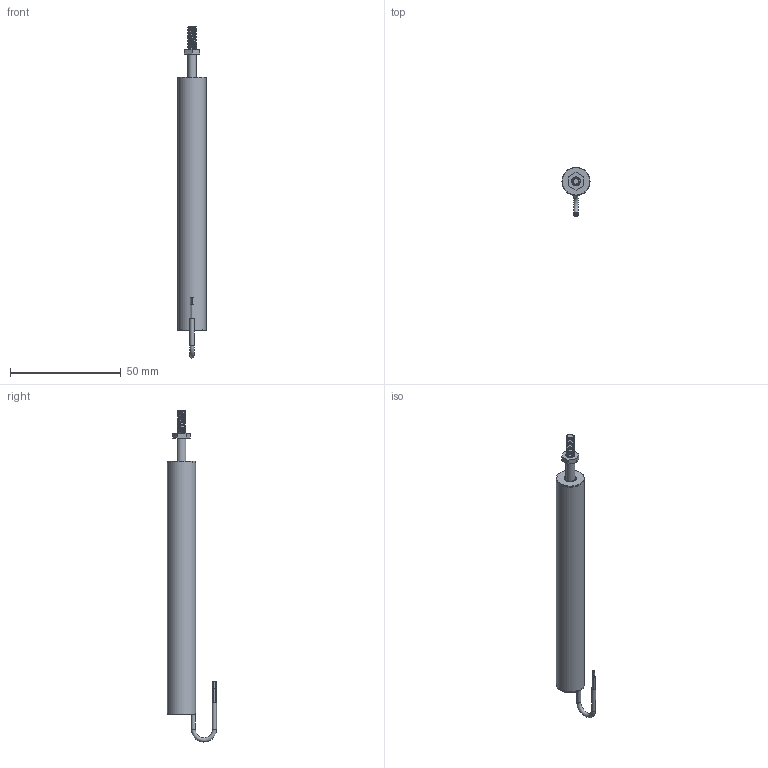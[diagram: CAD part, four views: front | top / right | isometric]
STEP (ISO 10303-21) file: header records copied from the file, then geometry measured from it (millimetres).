
FILE_DESCRIPTION(/* description */ (''),/* implementation_level */ '2;1');
FILE_NAME(/* name */ 'C:\Users\Justin\Documents\CAD\The Sensor Connection\Position Sensors\Displacement\ILPS\3D\Mechanically Linked\ILPS-13Z-XXX-A-00-YY-S\ILPS-13Z-04-A-00-YY-S\ILPS-13Z-04-A-00-YY-S Assembly_SW.iam.stp',/* time_stamp */ '2022-06-03T09:26:10-04:00',/* author */ ('TSC_Grant'),/* organization */ (''),/* preprocessor_version */ 'ST-DEVELOPER v19',/* originating_system */ 'Autodesk Inventor 2023',/* authorisation */ '');
FILE_SCHEMA (('AUTOMOTIVE_DESIGN { 1 0 10303 214 3 1 1 }'));
Length unit declared in the file: inch
Products named in the file (5): 3020-0017-XX Assembly_SW; 3020-0017-XX Sensor Tube_SW; 3020-0017-XX Shaft_SW; 3020-0017-XX Wire_SW; BS 4183 - M4
Assembly tree (4 placements, depth 2):
  3020-0017-XX Assembly_SW
    3020-0017-XX Sensor Tube_SW
    3020-0017-XX Shaft_SW
    3020-0017-XX Wire_SW
    BS 4183 - M4
Bounding box: 12.7 x 22.14 x 149.93 mm (x, y, z)
Volume: 3114.9 mm3; surface area: 15367.6 mm2
Topology: 7 solids, 7 shells, 60 faces, 112 edges, 74 vertices
Faces by surface type: plane 31, cylinder 21, cone 4, bspline 3, torus 1
Full cylindrical faces by diameter (mm): 0.508 x4, 0.635 x4, 1.857 x2, 3.242 x1, 3.988 x1, 4.826 x1, 5.588 x3, 12.446 x2, 12.7 x1
Entity records: 3399 total; most frequent: CARTESIAN_POINT 1856, DIRECTION 281, ORIENTED_EDGE 224, AXIS2_PLACEMENT_3D 116, EDGE_CURVE 112, EDGE_LOOP 78, VERTEX_POINT 74, FACE_OUTER_BOUND 60
